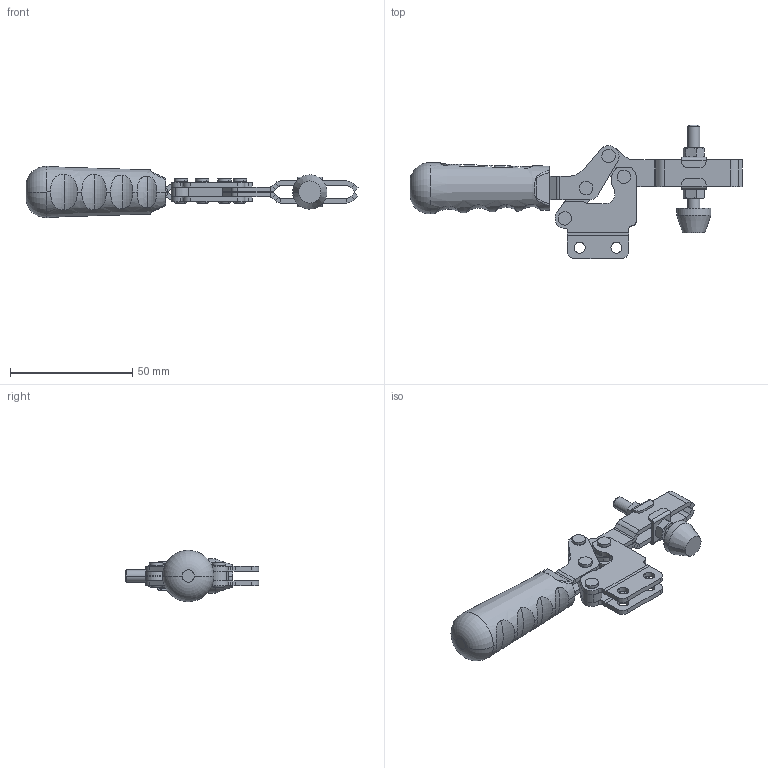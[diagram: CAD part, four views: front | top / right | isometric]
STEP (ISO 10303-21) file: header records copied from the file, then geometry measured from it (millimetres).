
FILE_DESCRIPTION (( 'STEP AP203' ), '1' );
FILE_NAME ('1201_D.STEP', '2022-11-22T13:34:01', ( '' ), ( '' ), 'SwSTEP 2.0', 'SolidWorks 2023', '' );
FILE_SCHEMA (( 'CONFIG_CONTROL_DESIGN' ));
Length unit declared in the file: millimetre
Products named in the file (13): Pim_3_5x10_5_Varsayılan; Aynalama2_1204_BaskıKolu_Varsayılan; M5 Baskı_Varsayılan; 3_1204_Hareket Kolu_Varsayılan; M5 Askı_Varsayılan; 2_1204_BaskıKolu_Varsayılan; 1_1204_gOVDE_Varsayılan; M5 Baskı Grubu_Varsayılan; Aynalama3_1204_Hareket Kolu_Varsayılan; C55_Yeni_Tutamak_Varsayılan; M5 Somun_Varsayılan; 4_1204_Mafsal_Varsayılan; 1201_D
Assembly tree (17 placements, depth 3):
  1201_D
    1_1204_gOVDE_Varsayılan
    2_1204_BaskıKolu_Varsayılan
    3_1204_Hareket Kolu_Varsayılan
    4_1204_Mafsal_Varsayılan
    Pim_3_5x10_5_Varsayılan  x4
    M5 Baskı Grubu_Varsayılan
      M5 Baskı_Varsayılan
      M5 Somun_Varsayılan  x2
      M5 Askı_Varsayılan  x2
    Aynalama3_1204_Hareket Kolu_Varsayılan
    Aynalama2_1204_BaskıKolu_Varsayılan
    C55_Yeni_Tutamak_Varsayılan
Bounding box: 135.67 x 54.6 x 20.98 mm (x, y, z)
Volume: 24905.8 mm3; surface area: 20018 mm2
Topology: 17 solids, 17 shells, 850 faces, 2156 edges, 1366 vertices
Faces by surface type: plane 501, cylinder 233, bspline 60, torus 34, cone 22
Entity records: 24063 total; most frequent: CARTESIAN_POINT 7201, ORIENTED_EDGE 3268, DIRECTION 3054, EDGE_CURVE 1634, LINE 1068, VECTOR 1068, VERTEX_POINT 1042, AXIS2_PLACEMENT_3D 993
